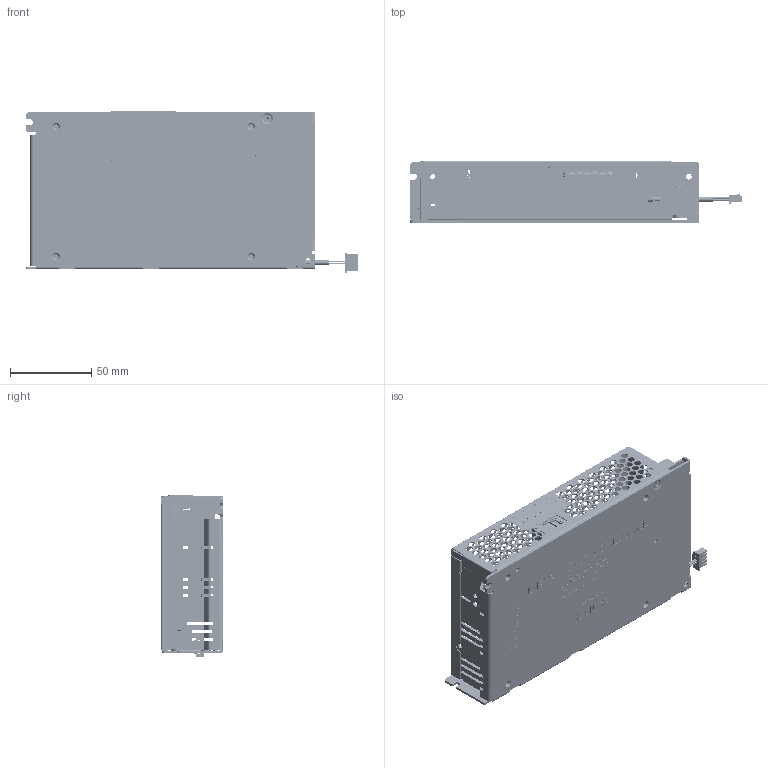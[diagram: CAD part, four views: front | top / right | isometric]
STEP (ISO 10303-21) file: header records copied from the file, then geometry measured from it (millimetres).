
FILE_DESCRIPTION((''),'2;1');
FILE_NAME('PMU-13V155WCCA_ASM','2016-12-29T',('warud'),(''),'PRO/ENGINEER BY PARAMETRIC TECHNOLOGY CORPORATION, 2010180','PRO/ENGINEER BY PARAMETRIC TECHNOLOGY CORPORATION, 2010180','');
FILE_SCHEMA(('CONFIG_CONTROL_DESIGN','SHAPE_APPEARANCE_LAYERS_GROUPS'));
Products named in the file (29): 330332620102_A_BODY_8; 330332620102_A_STUD_5; 330332620102_ASM_8_ASM; 330332640000_1; PWB_MAINBOARD_7; DCT-2454_2; EE_VR370_1; MANIFOLD_SOLID_BREP_114889; MANIFOLD_SOLID_BREP_115016; MANIFOLD_SOLID_BREP_115143; MANIFOLD_SOLID_BREP_115270; MANIFOLD_SOLID_BREP_115397; 400311XXXX_2_ASM; 3050031731_1; 367256240000_ASM_2_ASM; ASSY_DCT-2454_ASM_2_ASM; 307049757W_A_BODY_1; 307049757W_A_SCREW_1; 307049757W_ASM_1_ASM; 3000059426_SW1-1ST_1; ASSY_PWB-MAINBOARD_ASM_8_ASM; 3105469000_1; 3268095800_SPEC-LABEL_1; 326364330000_FRONT-LABEL_1; 326208210206_WARNING-LABEL_1; 3470309000_1; 3110110900_1; 310546190000_1; PMU-13V155WCCA_ASM
Assembly tree (35 placements, depth 6):
  PMU-13V155WCCA_ASM
    330332620102_ASM_8_ASM
      330332620102_A_BODY_8
      330332620102_A_STUD_5  x2
    330332640000_1
    ASSY_PWB-MAINBOARD_ASM_8_ASM
      PWB_MAINBOARD_7
      ASSY_DCT-2454_ASM_2_ASM
        DCT-2454_2
        EE_VR370_1
        367256240000_ASM_2_ASM
          400311XXXX_2_ASM
            MANIFOLD_SOLID_BREP_114889
            MANIFOLD_SOLID_BREP_115016
            MANIFOLD_SOLID_BREP_115143
            MANIFOLD_SOLID_BREP_115270
            MANIFOLD_SOLID_BREP_115397
          3050031731_1
      307049757W_ASM_1_ASM
        307049757W_A_BODY_1
        307049757W_A_SCREW_1  x7
      3000059426_SW1-1ST_1
    3105469000_1
    3268095800_SPEC-LABEL_1
    326364330000_FRONT-LABEL_1
    326208210206_WARNING-LABEL_1
    3470309000_1
    3110110900_1
    310546190000_1
Bounding box: 204.2 x 38.05 x 99.15 mm (x, y, z)
Volume: 89177.6 mm3; surface area: 143614.9 mm2
Topology: 29 solids, 29 shells, 4949 faces, 13638 edges, 8862 vertices
Faces by surface type: plane 2388, cylinder 1803, extrusion 509, bspline 117, cone 100, torus 32
Entity records: 168095 total; most frequent: CARTESIAN_POINT 29814, ORIENTED_EDGE 23808, DIRECTION 22670, EDGE_CURVE 11904, VERTEX_POINT 7849, PRESENTATION_STYLE_ASSIGNMENT 7694, VECTOR 7678, STYLED_ITEM 7585
